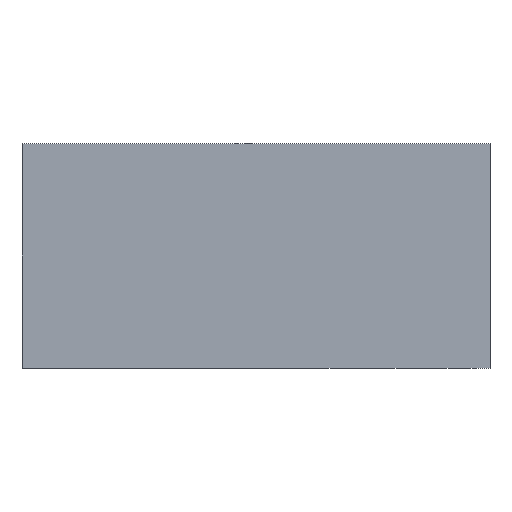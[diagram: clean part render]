
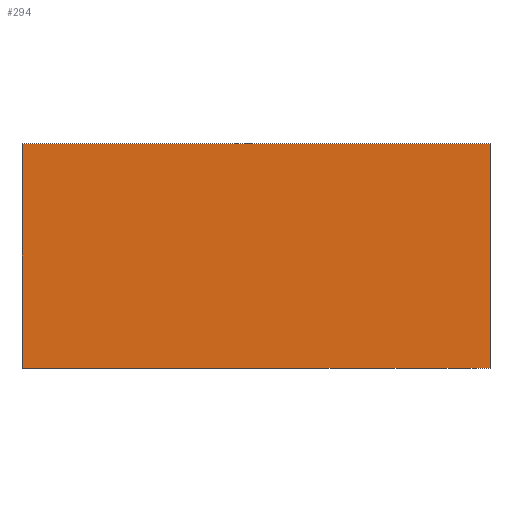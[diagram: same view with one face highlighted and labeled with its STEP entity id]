
A CAD part, left-side view. The second image highlights one B-rep face of the part: STEP entity #294.
In plain terms, the highlighted planar face has unit normal (-1, 0, 0).
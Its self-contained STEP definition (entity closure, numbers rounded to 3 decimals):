
#40=FACE_OUTER_BOUND('',#58,.T.);
#58=EDGE_LOOP('',(#257,#258,#259,#260));
#79=LINE('',#456,#111);
#87=LINE('',#483,#119);
#90=LINE('',#488,#122);
#91=LINE('',#490,#123);
#111=VECTOR('',#369,10.);
#119=VECTOR('',#397,10.);
#122=VECTOR('',#404,10.);
#123=VECTOR('',#407,10.);
#138=VERTEX_POINT('',#449);
#141=VERTEX_POINT('',#454);
#147=VERTEX_POINT('',#476);
#150=VERTEX_POINT('',#481);
#172=EDGE_CURVE('',#141,#138,#79,.T.);
#185=EDGE_CURVE('',#150,#147,#87,.T.);
#188=EDGE_CURVE('',#138,#150,#90,.T.);
#189=EDGE_CURVE('',#141,#147,#91,.T.);
#257=ORIENTED_EDGE('',*,*,#189,.T.);
#258=ORIENTED_EDGE('',*,*,#185,.F.);
#259=ORIENTED_EDGE('',*,*,#188,.F.);
#260=ORIENTED_EDGE('',*,*,#172,.F.);
#279=PLANE('',#330);
#294=ADVANCED_FACE('',(#40),#279,.F.);
#330=AXIS2_PLACEMENT_3D('',#489,#405,#406);
#369=DIRECTION('',(0.,-1.,0.));
#397=DIRECTION('',(0.,1.,0.));
#404=DIRECTION('',(0.,0.,-1.));
#405=DIRECTION('center_axis',(1.,0.,0.));
#406=DIRECTION('ref_axis',(0.,0.,-1.));
#407=DIRECTION('',(0.,0.,-1.));
#449=CARTESIAN_POINT('',(0.,0.,61.5));
#454=CARTESIAN_POINT('',(0.,128.,61.5));
#456=CARTESIAN_POINT('',(0.,64.,61.5));
#476=CARTESIAN_POINT('',(0.,128.,0.));
#481=CARTESIAN_POINT('',(0.,0.,0.));
#483=CARTESIAN_POINT('',(0.,64.,0.));
#488=CARTESIAN_POINT('',(0.,0.,31.5));
#489=CARTESIAN_POINT('Origin',(0.,64.,0.75));
#490=CARTESIAN_POINT('',(0.,128.,31.5));
